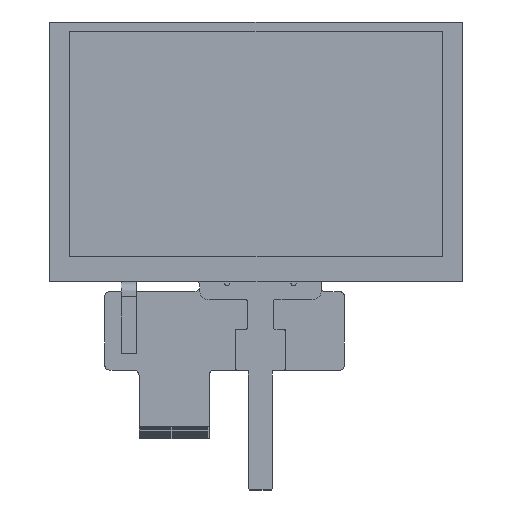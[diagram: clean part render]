
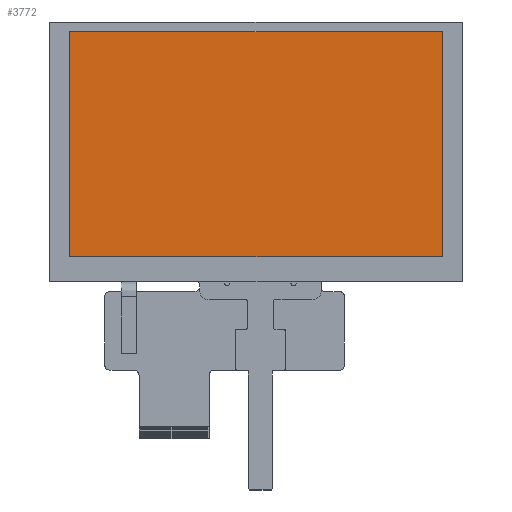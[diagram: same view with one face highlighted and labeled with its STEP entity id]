
A CAD part, top view. The second image highlights one B-rep face of the part: STEP entity #3772.
In plain terms, the highlighted planar face has unit normal (0, 0, 1) as drawn and (0, 1, 0) by its records, which use the part's own axes.
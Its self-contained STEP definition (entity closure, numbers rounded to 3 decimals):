
#114 = PLANE ( 'NONE',  #9484 ) ;
#1182 = CARTESIAN_POINT ( 'NONE',  ( 54.5, 0., -30.77 ) ) ;
#1223 = CARTESIAN_POINT ( 'NONE',  ( 54.5, 0., 35.03 ) ) ;
#1356 = LINE ( 'NONE', #7666, #5898 ) ;
#1654 = ORIENTED_EDGE ( 'NONE', *, *, #3925, .T. ) ;
#2420 = VERTEX_POINT ( 'NONE', #1223 ) ;
#2494 = CARTESIAN_POINT ( 'NONE',  ( 54.5, 0., 35.03 ) ) ;
#3050 = ORIENTED_EDGE ( 'NONE', *, *, #4516, .T. ) ;
#3123 = FACE_OUTER_BOUND ( 'NONE', #9372, .T. ) ;
#3436 = EDGE_CURVE ( 'NONE', #5662, #8382, #3727, .T. ) ;
#3511 = VERTEX_POINT ( 'NONE', #1182 ) ;
#3727 = LINE ( 'NONE', #6654, #6194 ) ;
#3772 = ADVANCED_FACE ( 'NONE', ( #3123 ), #114, .F. ) ;
#3925 = EDGE_CURVE ( 'NONE', #2420, #3511, #7033, .T. ) ;
#4031 = DIRECTION ( 'NONE',  ( 0., 0., -1. ) ) ;
#4192 = DIRECTION ( 'NONE',  ( 0., 0., -1. ) ) ;
#4516 = EDGE_CURVE ( 'NONE', #8382, #2420, #5553, .T. ) ;
#4919 = DIRECTION ( 'NONE',  ( 1., 0., 0. ) ) ;
#5146 = DIRECTION ( 'NONE',  ( 0., 0., 1. ) ) ;
#5425 = EDGE_CURVE ( 'NONE', #3511, #5662, #1356, .T. ) ;
#5553 = LINE ( 'NONE', #9623, #7504 ) ;
#5662 = VERTEX_POINT ( 'NONE', #6414 ) ;
#5898 = VECTOR ( 'NONE', #6964, 1000. ) ;
#6194 = VECTOR ( 'NONE', #5146, 1000. ) ;
#6414 = CARTESIAN_POINT ( 'NONE',  ( -54.5, 0., -30.77 ) ) ;
#6654 = CARTESIAN_POINT ( 'NONE',  ( -54.5, 0., -30.77 ) ) ;
#6823 = CARTESIAN_POINT ( 'NONE',  ( -54.5, 0., 35.03 ) ) ;
#6964 = DIRECTION ( 'NONE',  ( -1., 0., 0. ) ) ;
#7033 = LINE ( 'NONE', #2494, #8620 ) ;
#7504 = VECTOR ( 'NONE', #4919, 1000. ) ;
#7666 = CARTESIAN_POINT ( 'NONE',  ( 54.5, 0., -30.77 ) ) ;
#7893 = ORIENTED_EDGE ( 'NONE', *, *, #3436, .T. ) ;
#8117 = ORIENTED_EDGE ( 'NONE', *, *, #5425, .T. ) ;
#8382 = VERTEX_POINT ( 'NONE', #6823 ) ;
#8620 = VECTOR ( 'NONE', #4192, 1000. ) ;
#8729 = CARTESIAN_POINT ( 'NONE',  ( 0., 0., 0. ) ) ;
#9372 = EDGE_LOOP ( 'NONE', ( #8117, #7893, #3050, #1654 ) ) ;
#9484 = AXIS2_PLACEMENT_3D ( 'NONE', #8729, #9598, #4031 ) ;
#9598 = DIRECTION ( 'NONE',  ( 0., -1., 0. ) ) ;
#9623 = CARTESIAN_POINT ( 'NONE',  ( -54.5, 0., 35.03 ) ) ;
